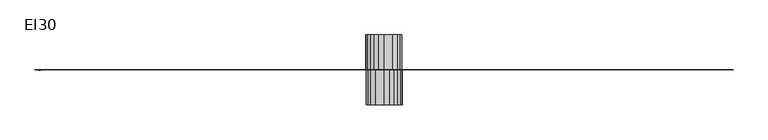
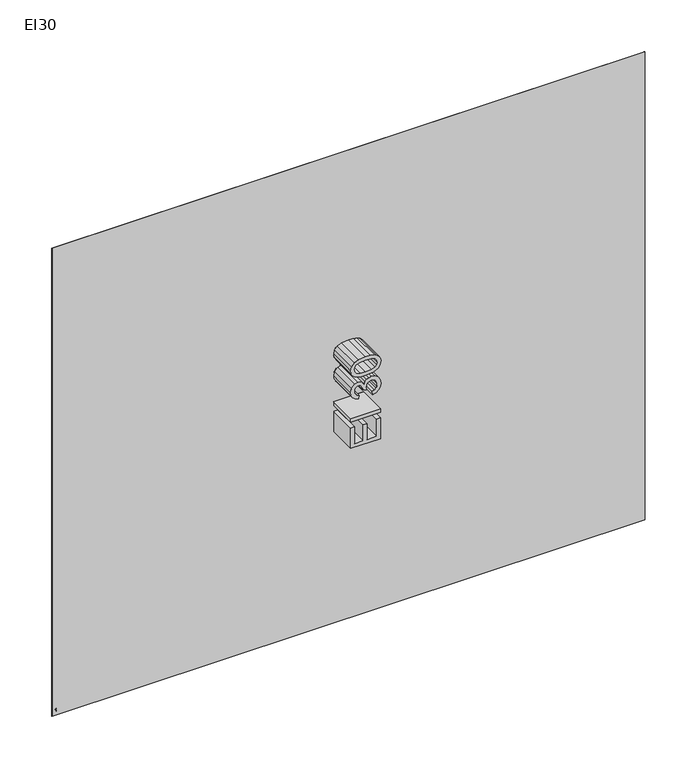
"""IFC4 building model written with IfcOpenShell, lengths in millimetres: proxy geometry, Fire_FireCompartmentationEI : EI30."""

from ifc_helpers import new_model, si_unit, point, frame, frame_2d, origin, origin_with_axes, place, context, project, spatial, polyline, circle_curve, trimmed, segment, composite_curve, outline, extrude, source, transform, mapped, element, save


def ei30_2c21a536(model_context):
    return source(origin(), model_context, "Body", "SweptSolid", [
        extrude(outline(polyline([(3000.0, -0.5), (0.0, -0.5), (0.0, 0.5), (3000.0, 0.5), (3000.0, -0.5)])), origin_with_axes(), (0.0, 0.0, 1.0), 2500.0),
        extrude(outline(composite_curve([segment(trimmed(circle_curve(frame_2d((28.9488523, 20.9372462)), 4.3000253), [point((27.7936078, 25.0791815))], [point((29.724042, 25.1668205))], False, "CARTESIAN"), True, "CONTINUOUS"), segment(trimmed(circle_curve(frame_2d((29.6833004, 19.2917407)), 5.875221), [point((29.724042, 25.1668205))], [point((32.6283278, 24.3755421))], False, "CARTESIAN"), True, "CONTINUOUS"), segment(trimmed(circle_curve(frame_2d((32.8576867, 20.8662932)), 3.5167361), [point((32.6283278, 24.3755421))], [point((30.6249304, 23.5833197))], True, "CARTESIAN"), True, "CONTINUOUS"), segment(trimmed(circle_curve(frame_2d((10.876956, 53.8348059)), 36.1266511), [point((30.6249304, 23.5833197))], [point((25.8949704, 20.9776277))], False, "CARTESIAN"), True, "CONTINUOUS"), segment(trimmed(circle_curve(frame_2d((21.9041848, 33.757735)), 13.3887083), [point((25.8949704, 20.9776277))], [point((22.6832699, 20.3917132))], False, "CARTESIAN"), True, "CONTINUOUS"), segment(trimmed(circle_curve(frame_2d((20.9508608, 39.8789486)), 19.5640891), [point((22.6832699, 20.3917132))], [point((20.0109811, 20.3374489))], False, "CARTESIAN"), True, "CONTINUOUS"), segment(trimmed(circle_curve(frame_2d((18.2722891, 30.1747881)), 9.9898094), [point((20.0109811, 20.3374489))], [point((25.2489423, 23.0247809))], True, "CARTESIAN"), True, "CONTINUOUS"), segment(trimmed(circle_curve(frame_2d((30.9774835, 18.5323372)), 7.2799887), [point((25.2489423, 23.0247809))], [point((27.7936078, 25.0791815))], False, "CARTESIAN"), True, "CONTINUOUS")], self_intersect=False)), frame((0.0, -0.6, 0.0), z_axis=(0.0, 1.0, 0.0), x_axis=(0.0, 0.0, 1.0)), (0.0, 0.0, 1.0), 1.2),
        extrude(outline(composite_curve([segment(trimmed(circle_curve(frame_2d((34.8553456, 17.4656787)), 4.3823741), [point((35.4675373, 21.8050824))], [point((32.7666638, 21.3182897))], True, "CARTESIAN"), True, "CONTINUOUS"), segment(trimmed(circle_curve(frame_2d((31.0348418, 25.2412811)), 4.2882478), [point((32.7666638, 21.3182897))], [point((31.0556823, 20.9530839))], False, "CARTESIAN"), True, "CONTINUOUS"), segment(trimmed(circle_curve(frame_2d((30.8661112, 26.3534755)), 5.4037178), [point((31.0556823, 20.9530839))], [point((28.4262544, 21.5319337))], False, "CARTESIAN"), True, "CONTINUOUS"), segment(trimmed(circle_curve(frame_2d((28.9867579, 26.8058524)), 5.3036197), [point((28.4262544, 21.5319337))], [point((30.6443727, 21.7679267))], True, "CARTESIAN"), True, "CONTINUOUS"), segment(trimmed(circle_curve(frame_2d((33.7648144, 18.2895153)), 4.6729544), [point((30.6443727, 21.7679267))], [point((32.5632515, 22.8053485))], False, "CARTESIAN"), True, "CONTINUOUS"), segment(trimmed(circle_curve(frame_2d((33.1708117, 19.8529583)), 3.0142556), [point((32.5632515, 22.8053485))], [point((35.4675373, 21.8050824))], False, "CARTESIAN"), True, "CONTINUOUS")], self_intersect=False)), frame((0.0, -0.6, 0.0), z_axis=(0.0, 1.0, 0.0), x_axis=(0.0, 0.0, 1.0)), (0.0, 0.0, 1.0), 1.2),
        extrude(outline(composite_curve([segment(trimmed(circle_curve(frame_2d((26.35828, 17.8501973)), 2.1465167), [point((27.6612009, 19.5560492))], [point((26.6135063, 19.9814864))], True, "CARTESIAN"), True, "CONTINUOUS"), segment(trimmed(circle_curve(frame_2d((25.771558, 13.6747037)), 6.3627341), [point((26.6135063, 19.9814864))], [point((25.1811141, 20.0099828))], True, "CARTESIAN"), True, "CONTINUOUS"), segment(trimmed(circle_curve(frame_2d((27.6708438, 15.0485986)), 5.5510437), [point((25.1811141, 20.0099828))], [point((27.8117089, 20.5978547))], False, "CARTESIAN"), True, "CONTINUOUS"), segment(trimmed(circle_curve(frame_2d((27.9681735, 17.2267436)), 3.3747401), [point((27.8117089, 20.5978547))], [point((29.507487, 20.2299728))], False, "CARTESIAN"), True, "CONTINUOUS"), segment(trimmed(circle_curve(frame_2d((31.5381431, 23.6896238)), 4.0115769), [point((29.507487, 20.2299728))], [point((32.2223971, 19.7368341))], True, "CARTESIAN"), True, "CONTINUOUS"), segment(trimmed(circle_curve(frame_2d((29.9256715, 21.6889582)), 3.0142556), [point((32.2223971, 19.7368341))], [point((29.3181113, 18.736568))], False, "CARTESIAN"), True, "CONTINUOUS"), segment(trimmed(circle_curve(frame_2d((30.5170043, 23.2454076)), 4.6655095), [point((29.3181113, 18.736568))], [point((27.6612009, 19.5560492))], False, "CARTESIAN"), True, "CONTINUOUS")], self_intersect=False)), frame((0.0, -0.6, 0.0), z_axis=(0.0, 1.0, 0.0), x_axis=(0.0, 0.0, 1.0)), (0.0, 0.0, 1.0), 1.2),
        extrude(outline(composite_curve([segment(trimmed(circle_curve(frame_2d((32.8467056, 19.4711557)), 3.5167361), [point((30.6139493, 16.7541292))], [point((32.6173467, 15.9619068))], True, "CARTESIAN"), True, "CONTINUOUS"), segment(trimmed(circle_curve(frame_2d((29.6723193, 21.0457082)), 5.875221), [point((32.6173467, 15.9619068))], [point((29.7130609, 15.1706284))], False, "CARTESIAN"), True, "CONTINUOUS"), segment(trimmed(circle_curve(frame_2d((28.9378712, 19.4002026)), 4.3000253), [point((29.7130609, 15.1706284))], [point((27.7826267, 15.2582674))], False, "CARTESIAN"), True, "CONTINUOUS"), segment(trimmed(circle_curve(frame_2d((30.9665024, 21.8051117)), 7.2799887), [point((27.7826267, 15.2582674))], [point((25.2379612, 17.312668))], False, "CARTESIAN"), True, "CONTINUOUS"), segment(trimmed(circle_curve(frame_2d((18.261308, 10.1626608)), 9.9898094), [point((25.2379612, 17.312668))], [point((20.0, 20.0))], True, "CARTESIAN"), True, "CONTINUOUS"), segment(trimmed(circle_curve(frame_2d((20.9398797, 0.4585003)), 19.5640891), [point((20.0, 20.0))], [point((22.6722888, 19.9457357))], False, "CARTESIAN"), True, "CONTINUOUS"), segment(trimmed(circle_curve(frame_2d((21.8932037, 6.5797139)), 13.3887083), [point((22.6722888, 19.9457357))], [point((25.8839893, 19.3598212))], False, "CARTESIAN"), True, "CONTINUOUS"), segment(trimmed(circle_curve(frame_2d((10.8659749, -13.497357)), 36.1266511), [point((25.8839893, 19.3598212))], [point((30.6139493, 16.7541292))], False, "CARTESIAN"), True, "CONTINUOUS")], self_intersect=False)), frame((0.0, -0.6, 0.0), z_axis=(0.0, 1.0, 0.0), x_axis=(0.0, 0.0, 1.0)), (0.0, 0.0, 1.0), 1.2),
        extrude(outline(polyline([(1022.7960798, 1425.0), (1022.7960798, 1575.6844652), (1131.1005392, 1575.6844652), (1131.1005392, 1556.8489071), (1041.6316379, 1556.8489071), (1041.6316379, 1512.1144565), (1126.3916496, 1512.1144565), (1126.3916496, 1493.2788983), (1041.6316379, 1493.2788983), (1041.6316379, 1443.8355582), (1133.4549839, 1443.8355582), (1133.4549839, 1425.0), (1022.7960798, 1425.0)])), frame((0.0, 0.0, 0.0), z_axis=(0.0, 1.0, 0.0), x_axis=(0.0, 0.0, 1.0)), (0.0, 0.0, 1.0), 150.0),
        extrude(outline(polyline([(1425.0, 150.0), (1575.6844652, 150.0), (1575.6844652, 0.0), (1425.0, 0.0), (1425.0, 150.0)])), frame((0.0, 0.0, 1164.0627659), z_axis=(0.0, 0.0, 1.0), x_axis=(1.0, 0.0, 0.0)), (0.0, 0.0, 1.0), 18.8355582),
        extrude(outline(polyline([(1272.3672253, 1465.0255611), (1291.2027835, 1467.3800058), (1295.4196308, 1455.5434026), (1301.5954498, 1447.5511663), (1310.0337431, 1442.9986266), (1321.0380133, 1441.4811134), (1333.9506713, 1443.5688437), (1343.9202734, 1449.8320347), (1350.2938289, 1459.1762374), (1352.4183475, 1470.5070028), (1350.312223, 1481.2629526), (1343.9938498, 1489.9863544), (1334.4289179, 1495.7667003), (1322.5831176, 1497.6934822), (1309.376154, 1495.6333431), (1311.4730814, 1514.4689012), (1314.4897138, 1514.248172), (1335.8636577, 1519.6560374), (1342.9821743, 1526.5170366), (1345.3550131, 1536.2843035), (1343.6351648, 1544.4190942), (1338.4756198, 1551.0179774), (1330.6029451, 1555.3911747), (1320.7437077, 1556.8489071), (1310.8660761, 1555.3773791), (1302.7910663, 1550.9627951), (1296.8957573, 1543.6051552), (1293.5572282, 1533.3044594), (1274.7216701, 1535.6589041), (1280.2674912, 1552.5722789), (1290.1359257, 1565.1998284), (1303.6371949, 1573.063306), (1320.0815201, 1575.6844652), (1342.7982333, 1570.5157232), (1358.6907355, 1556.3890546), (1364.1905713, 1537.3879495), (1358.966647, 1520.0239194), (1343.5156032, 1507.5527197), (1355.3062211, 1502.7886479), (1364.0434185, 1494.6768499), (1369.4512838, 1483.6587841), (1371.2539056, 1470.175909), (1367.6486621, 1451.8185974), (1356.8329314, 1436.4779182), (1340.5081679, 1426.103646), (1320.3758257, 1422.6455552), (1302.1656669, 1425.5978082), (1287.3400225, 1434.4545673), (1277.0301296, 1448.0018217), (1272.3672253, 1465.0255611)])), frame((0.0, 0.0, 0.0), z_axis=(0.0, 1.0, 0.0), x_axis=(0.0, 0.0, 1.0)), (0.0, 0.0, 1.0), 150.0),
        extrude(outline(polyline([(1387.735019, 1499.128222), (1389.119175, 1523.2474853), (1393.271643, 1542.4831152), (1400.1510363, 1557.1294171), (1409.7159682, 1567.4806967), (1422.0354165, 1573.6335231), (1437.1783591, 1575.6844652), (1459.1777025, 1570.8284229), (1474.3712289, 1556.830513), (1483.2003967, 1534.5368641), (1486.6216993, 1499.128222), (1485.2513389, 1475.1469145), (1481.1402576, 1455.9572699), (1474.302251, 1441.2971724), (1464.7511147, 1430.904506), (1452.4040752, 1424.7102929), (1437.1783591, 1422.6455552), (1417.607037, 1426.2324047), (1402.7446044, 1436.992953), (1391.4874153, 1462.4779783), (1387.735019, 1499.128222)]), holes=[polyline([(1406.5705771, 1499.1650102), (1408.7778691, 1469.536714), (1415.399745, 1452.3888145), (1425.2589825, 1444.2080387), (1437.1783591, 1441.4811134), (1449.0977358, 1444.2172357), (1458.9569733, 1452.4256027), (1465.5788492, 1469.5826993), (1467.7861411, 1499.1650102), (1465.6524256, 1528.1265203), (1459.2512789, 1545.407777), (1449.4104355, 1553.9886246), (1436.9576299, 1556.8489071), (1425.167012, 1554.3289154), (1415.6940506, 1546.7689404), (1408.8514455, 1528.4116288), (1406.5705771, 1499.1650102)])]), frame((0.0, 0.0, 0.0), z_axis=(0.0, 1.0, 0.0), x_axis=(0.0, 0.0, 1.0)), (0.0, 0.0, 1.0), 150.0),
        extrude(outline(polyline([(1022.7960798, 1575.0), (1133.4549839, 1575.0), (1133.4549839, 1556.1644418), (1041.6316379, 1556.1644418), (1041.6316379, 1506.7211017), (1126.3916496, 1506.7211017), (1126.3916496, 1487.8855435), (1041.6316379, 1487.8855435), (1041.6316379, 1443.1510929), (1131.1005392, 1443.1510929), (1131.1005392, 1424.3155348), (1022.7960798, 1424.3155348), (1022.7960798, 1575.0)])), frame((0.0, -150.0, 0.0), z_axis=(0.0, 1.0, 0.0), x_axis=(0.0, 0.0, 1.0)), (0.0, 0.0, 1.0), 150.0),
        extrude(outline(polyline([(1575.0, -150.0), (1424.3155348, -150.0), (1424.3155348, 0.0), (1575.0, 0.0), (1575.0, -150.0)])), frame((0.0, 0.0, 1164.0627659), z_axis=(0.0, 0.0, 1.0), x_axis=(1.0, 0.0, 0.0)), (0.0, 0.0, 1.0), 18.8355582),
        extrude(outline(polyline([(1272.3672253, 1534.9744389), (1277.0301296, 1551.9981783), (1287.3400225, 1565.5454327), (1302.1656669, 1574.4021918), (1320.3758257, 1577.3544448), (1340.5081679, 1573.896354), (1356.8329314, 1563.5220818), (1367.6486621, 1548.1814026), (1371.2539056, 1529.824091), (1369.4512838, 1516.3412159), (1364.0434185, 1505.3231501), (1355.3062211, 1497.2113521), (1343.5156032, 1492.4472803), (1358.966647, 1479.9760806), (1364.1905713, 1462.6120505), (1358.6907355, 1443.6109454), (1342.7982333, 1429.4842768), (1320.0815201, 1424.3155348), (1303.6371949, 1426.936694), (1290.1359257, 1434.8001716), (1280.2674912, 1447.4277211), (1274.7216701, 1464.3410959), (1293.5572282, 1466.6955406), (1296.8957573, 1456.3948448), (1302.7910663, 1449.0372049), (1310.8660761, 1444.6226209), (1320.7437077, 1443.1510929), (1330.6029451, 1444.6088253), (1338.4756198, 1448.9820226), (1343.6351648, 1455.5809058), (1345.3550131, 1463.7156965), (1342.9821743, 1473.4829634), (1335.8636577, 1480.3439626), (1314.4897138, 1485.751828), (1311.4730814, 1485.5310988), (1309.376154, 1504.3666569), (1322.5831176, 1502.3065178), (1334.4289179, 1504.2332997), (1343.9938498, 1510.0136456), (1350.312223, 1518.7370474), (1352.4183475, 1529.4929972), (1350.2938289, 1540.8237626), (1343.9202734, 1550.1679653), (1333.9506713, 1556.4311563), (1321.0380133, 1558.5188866), (1310.0337431, 1557.0013734), (1301.5954498, 1552.4488337), (1295.4196308, 1544.4565974), (1291.2027835, 1532.6199942), (1272.3672253, 1534.9744389)])), frame((0.0, -150.0, 0.0), z_axis=(0.0, 1.0, 0.0), x_axis=(0.0, 0.0, 1.0)), (0.0, 0.0, 1.0), 150.0),
        extrude(outline(polyline([(1387.735019, 1500.871778), (1391.4874153, 1537.5220217), (1402.7446044, 1563.007047), (1417.607037, 1573.7675953), (1437.1783591, 1577.3544448), (1452.4040752, 1575.2897071), (1464.7511147, 1569.095494), (1474.302251, 1558.7028276), (1481.1402576, 1544.0427301), (1485.2513389, 1524.8530855), (1486.6216993, 1500.871778), (1483.2003967, 1465.4631359), (1474.3712289, 1443.169487), (1459.1777025, 1429.1715771), (1437.1783591, 1424.3155348), (1422.0354165, 1426.3664769), (1409.7159682, 1432.5193033), (1400.1510363, 1442.8705829), (1393.271643, 1457.5168848), (1389.119175, 1476.7525147), (1387.735019, 1500.871778)]), holes=[polyline([(1406.5705771, 1500.8349898), (1408.8514455, 1471.5883712), (1415.6940506, 1453.2310596), (1425.167012, 1445.6710846), (1436.9576299, 1443.1510929), (1449.4104355, 1446.0113754), (1459.2512789, 1454.592223), (1465.6524256, 1471.8734797), (1467.7861411, 1500.8349898), (1465.5788492, 1530.4173007), (1458.9569733, 1547.5743973), (1449.0977358, 1555.7827643), (1437.1783591, 1558.5188866), (1425.2589825, 1555.7919613), (1415.399745, 1547.6111855), (1408.7778691, 1530.463286), (1406.5705771, 1500.8349898)])]), frame((0.0, -150.0, 0.0), z_axis=(0.0, 1.0, 0.0), x_axis=(0.0, 0.0, 1.0)), (0.0, 0.0, 1.0), 150.0),
    ])


if __name__ == "__main__":
    model = new_model("IFC4")
    model_context = context("Model", 3, world=origin())
    ifc_project = project(units=[si_unit("LENGTHUNIT", "METRE", prefix="MILLI")], contexts=[model_context])
    site = spatial("IfcSite", under=ifc_project)
    building = spatial("IfcBuilding", under=site)
    placement = place(None, origin())
    ei30_shape = ei30_2c21a536(model_context)
    element("IfcBuildingElementProxy", 1, Name="Fire_FireCompartmentationEI : EI30", ObjectType="Fire_FireCompartmentationEI : EI30", at=placement, inside=building, context=model_context, shape_type="MappedRepresentation", body=[
        mapped(ei30_shape, transform((0.0, 0.0, 0.0), x_axis=(1.0, 0.0, 0.0), y_axis=(0.0, 1.0, 0.0), z_axis=(0.0, 0.0, 1.0))),
    ])
    save(model, "model.ifc")
